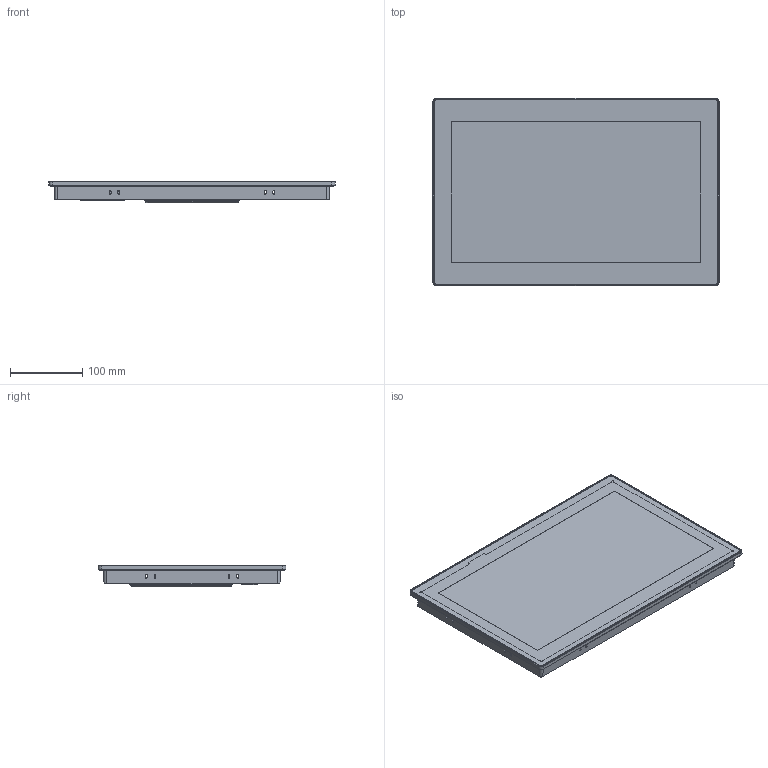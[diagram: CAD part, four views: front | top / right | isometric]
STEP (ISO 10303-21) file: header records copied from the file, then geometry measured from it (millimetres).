
FILE_DESCRIPTION((''),'2;1');
FILE_NAME('F2156E2','2023-02-17T18:51:12',('Administrator'),(''),'CREO PARAMETRIC BY PTC INC, 2019164','CREO PARAMETRIC BY PTC INC, 2019164','');
FILE_SCHEMA(('CONFIG_CONTROL_DESIGN','SHAPE_APPEARANCE_LAYERS_GROUPS'));
Length unit declared in the file: millimetre
Products named in the file (1): F2156E2
Bounding box: 395 x 259 x 30 mm (x, y, z)
Surface area: 269635.9 mm2 (no closed solid volume)
Topology: 0 solids, 38 shells, 657 faces, 2026 edges, 1406 vertices
Faces by surface type: plane 314, cylinder 191, cone 96, bspline 36, torus 12, revolution 4, extrusion 4
Entity records: 23951 total; most frequent: CARTESIAN_POINT 6365, DIRECTION 3508, ORIENTED_EDGE 3392, EDGE_CURVE 2026, VERTEX_POINT 1406, VECTOR 1170, AXIS2_PLACEMENT_3D 1167, LINE 1166
